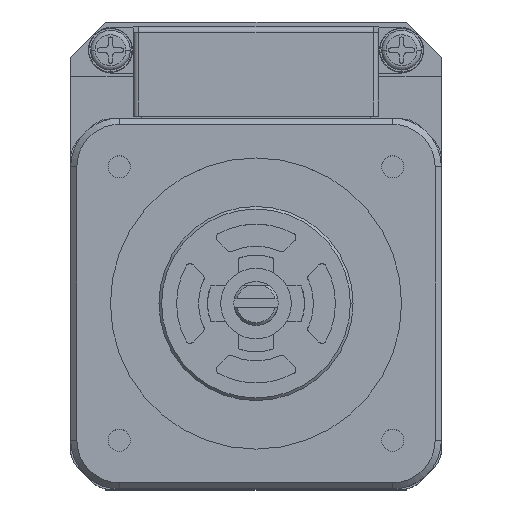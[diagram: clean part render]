
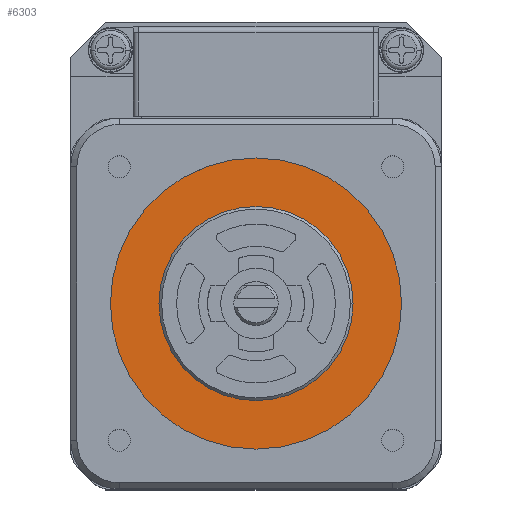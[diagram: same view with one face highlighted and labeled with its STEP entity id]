
A CAD part, top view. The second image highlights one B-rep face of the part: STEP entity #6303.
In plain terms, the highlighted planar face has unit normal (0, 0, 1).
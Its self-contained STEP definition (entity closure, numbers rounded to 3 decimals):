
#1557 = EDGE_CURVE ( 'NONE', #11319, #11311, #26065, .T. ) ;
#1578 = EDGE_CURVE ( 'NONE', #11287, #11284, #26094, .T. ) ;
#4134 = EDGE_CURVE ( 'NONE', #11284, #11287, #16860, .T. ) ;
#4393 = ORIENTED_EDGE ( 'NONE', *, *, #1578, .T. ) ;
#4394 = ORIENTED_EDGE ( 'NONE', *, *, #4134, .T. ) ;
#4395 = ORIENTED_EDGE ( 'NONE', *, *, #6165, .T. ) ;
#4396 = ORIENTED_EDGE ( 'NONE', *, *, #1557, .T. ) ;
#4701 = EDGE_LOOP ( 'NONE', ( #4395, #4396 ) ) ;
#4706 = EDGE_LOOP ( 'NONE', ( #4393, #4394 ) ) ;
#6165 = EDGE_CURVE ( 'NONE', #11311, #11319, #19674, .T. ) ;
#6303 = ADVANCED_FACE ( 'NONE', ( #21412, #21408 ), #21413, .T. ) ;
#8961 = CARTESIAN_POINT ( 'NONE',  ( 0., 0., -0.5 ) ) ;
#8962 = DIRECTION ( 'NONE',  ( 0., 0., 1. ) ) ;
#8963 = DIRECTION ( 'NONE',  ( 1., 0., 0. ) ) ;
#9023 = CARTESIAN_POINT ( 'NONE',  ( 0., 0., -0.5 ) ) ;
#9024 = DIRECTION ( 'NONE',  ( 0., 0., -1. ) ) ;
#9025 = DIRECTION ( 'NONE',  ( -1., 0., 0. ) ) ;
#11284 = VERTEX_POINT ( 'NONE', #21990 ) ;
#11287 = VERTEX_POINT ( 'NONE', #21993 ) ;
#11311 = VERTEX_POINT ( 'NONE', #22017 ) ;
#11319 = VERTEX_POINT ( 'NONE', #22025 ) ;
#16860 = CIRCLE ( 'NONE', #16862, 11. ) ;
#16862 = AXIS2_PLACEMENT_3D ( 'NONE', #17242, #17243, #17244 ) ;
#17242 = CARTESIAN_POINT ( 'NONE',  ( 0., 0., -0.5 ) ) ;
#17243 = DIRECTION ( 'NONE',  ( 0., 0., -1. ) ) ;
#17244 = DIRECTION ( 'NONE',  ( -1., 0., 0. ) ) ;
#19674 = CIRCLE ( 'NONE', #19677, 16.5 ) ;
#19677 = AXIS2_PLACEMENT_3D ( 'NONE', #20509, #20510, #20511 ) ;
#20509 = CARTESIAN_POINT ( 'NONE',  ( 0., 0., -0.5 ) ) ;
#20510 = DIRECTION ( 'NONE',  ( 0., 0., 1. ) ) ;
#20511 = DIRECTION ( 'NONE',  ( 1., 0., 0. ) ) ;
#21061 = AXIS2_PLACEMENT_3D ( 'NONE', #21403, #21415, #21416 ) ;
#21403 = CARTESIAN_POINT ( 'NONE',  ( -16.698, -16.698, -0.5 ) ) ;
#21408 = FACE_OUTER_BOUND ( 'NONE', #4701, .T. ) ;
#21412 = FACE_BOUND ( 'NONE', #4706, .T. ) ;
#21413 = PLANE ( 'NONE',  #21061 ) ;
#21415 = DIRECTION ( 'NONE',  ( 0., 0., 1. ) ) ;
#21416 = DIRECTION ( 'NONE',  ( 1., 0., 0. ) ) ;
#21990 = CARTESIAN_POINT ( 'NONE',  ( 11., 0., -0.5 ) ) ;
#21993 = CARTESIAN_POINT ( 'NONE',  ( -11., 0., -0.5 ) ) ;
#22017 = CARTESIAN_POINT ( 'NONE',  ( 16.5, 0., -0.5 ) ) ;
#22025 = CARTESIAN_POINT ( 'NONE',  ( -16.5, 0., -0.5 ) ) ;
#26065 = CIRCLE ( 'NONE', #26067, 16.5 ) ;
#26067 = AXIS2_PLACEMENT_3D ( 'NONE', #8961, #8962, #8963 ) ;
#26094 = CIRCLE ( 'NONE', #26098, 11. ) ;
#26098 = AXIS2_PLACEMENT_3D ( 'NONE', #9023, #9024, #9025 ) ;
